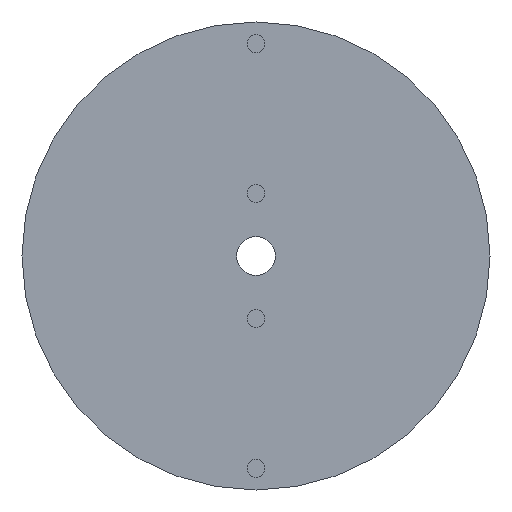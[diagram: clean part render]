
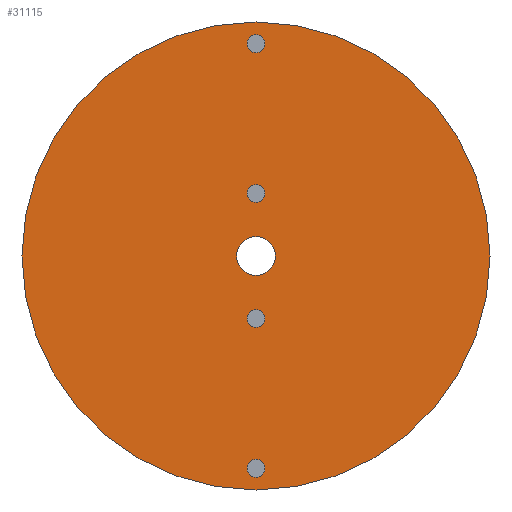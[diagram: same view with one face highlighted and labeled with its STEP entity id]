
A CAD part, front view. The second image highlights one B-rep face of the part: STEP entity #31115.
In plain terms, the highlighted planar face has unit normal (0, -1, 0).
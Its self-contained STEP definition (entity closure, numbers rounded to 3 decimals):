
#505 = AXIS2_PLACEMENT_3D ( 'NONE', #84507, #78976, #64778 ) ;
#644 = AXIS2_PLACEMENT_3D ( 'NONE', #74803, #34205, #80872 ) ;
#990 = DIRECTION ( 'NONE',  ( 0., 0., -1. ) ) ;
#2485 = EDGE_LOOP ( 'NONE', ( #52417, #36648 ) ) ;
#2487 = EDGE_LOOP ( 'NONE', ( #77822, #10987 ) ) ;
#4079 = CARTESIAN_POINT ( 'NONE',  ( -1.3, -34.6, -30.9 ) ) ;
#4391 = CARTESIAN_POINT ( 'NONE',  ( -1.3, -34.6, -9.1 ) ) ;
#4487 = VERTEX_POINT ( 'NONE', #20468 ) ;
#7564 = CIRCLE ( 'NONE', #32097, 2.825 ) ;
#7887 = CARTESIAN_POINT ( 'NONE',  ( 0., -34.6, 34.05 ) ) ;
#9667 = AXIS2_PLACEMENT_3D ( 'NONE', #12794, #31916, #52788 ) ;
#10987 = ORIENTED_EDGE ( 'NONE', *, *, #44942, .F. ) ;
#11839 = DIRECTION ( 'NONE',  ( 0., -1., 0. ) ) ;
#12529 = DIRECTION ( 'NONE',  ( 0., 0., -1. ) ) ;
#12794 = CARTESIAN_POINT ( 'NONE',  ( 0., -34.6, 0. ) ) ;
#14035 = CARTESIAN_POINT ( 'NONE',  ( 1.3, -34.6, -30.9 ) ) ;
#14142 = CIRCLE ( 'NONE', #18841, 1.3 ) ;
#14581 = AXIS2_PLACEMENT_3D ( 'NONE', #81040, #21008, #21878 ) ;
#14910 = VERTEX_POINT ( 'NONE', #52384 ) ;
#15947 = CARTESIAN_POINT ( 'NONE',  ( 0., -34.6, -2.825 ) ) ;
#16130 = CARTESIAN_POINT ( 'NONE',  ( 0., -34.6, -34.05 ) ) ;
#17238 = PLANE ( 'NONE',  #505 ) ;
#17240 = CARTESIAN_POINT ( 'NONE',  ( 1.3, -34.6, 9.1 ) ) ;
#17877 = AXIS2_PLACEMENT_3D ( 'NONE', #79299, #85960, #46257 ) ;
#18340 = EDGE_CURVE ( 'NONE', #76093, #58499, #36353, .T. ) ;
#18790 = EDGE_LOOP ( 'NONE', ( #50006, #62843 ) ) ;
#18841 = AXIS2_PLACEMENT_3D ( 'NONE', #46218, #59521, #990 ) ;
#19376 = EDGE_LOOP ( 'NONE', ( #30981, #22395 ) ) ;
#19532 = ORIENTED_EDGE ( 'NONE', *, *, #46116, .F. ) ;
#20451 = CIRCLE ( 'NONE', #36573, 1.3 ) ;
#20468 = CARTESIAN_POINT ( 'NONE',  ( 0., -34.6, 2.825 ) ) ;
#20906 = FACE_BOUND ( 'NONE', #2487, .T. ) ;
#20959 = CARTESIAN_POINT ( 'NONE',  ( 0., -34.6, 9.1 ) ) ;
#21008 = DIRECTION ( 'NONE',  ( 0., -1., 0. ) ) ;
#21196 = ORIENTED_EDGE ( 'NONE', *, *, #18340, .T. ) ;
#21878 = DIRECTION ( 'NONE',  ( 0., 0., -1. ) ) ;
#22010 = FACE_BOUND ( 'NONE', #73058, .T. ) ;
#22169 = CIRCLE ( 'NONE', #57112, 1.3 ) ;
#22282 = CARTESIAN_POINT ( 'NONE',  ( -1.3, -34.6, 9.1 ) ) ;
#22395 = ORIENTED_EDGE ( 'NONE', *, *, #53600, .F. ) ;
#22413 = ORIENTED_EDGE ( 'NONE', *, *, #71271, .T. ) ;
#22891 = DIRECTION ( 'NONE',  ( 0., 1., 0. ) ) ;
#24030 = DIRECTION ( 'NONE',  ( 0., -1., 0. ) ) ;
#24579 = EDGE_LOOP ( 'NONE', ( #21196, #22413 ) ) ;
#25255 = EDGE_CURVE ( 'NONE', #70640, #72272, #63645, .T. ) ;
#25558 = DIRECTION ( 'NONE',  ( 0., -1., 0. ) ) ;
#26463 = DIRECTION ( 'NONE',  ( 0., 0., -1. ) ) ;
#26764 = CIRCLE ( 'NONE', #54887, 1.3 ) ;
#29778 = VERTEX_POINT ( 'NONE', #14035 ) ;
#29796 = EDGE_CURVE ( 'NONE', #68676, #67838, #22169, .T. ) ;
#29823 = DIRECTION ( 'NONE',  ( 0., 0., -1. ) ) ;
#30523 = EDGE_CURVE ( 'NONE', #4487, #57758, #7564, .T. ) ;
#30981 = ORIENTED_EDGE ( 'NONE', *, *, #29796, .F. ) ;
#31115 = ADVANCED_FACE ( 'NONE', ( #82163, #64520, #46883, #44836, #22010, #20906 ), #17238, .T. ) ;
#31805 = CARTESIAN_POINT ( 'NONE',  ( 0., -34.6, -9.1 ) ) ;
#31916 = DIRECTION ( 'NONE',  ( 0., -1., 0. ) ) ;
#32097 = AXIS2_PLACEMENT_3D ( 'NONE', #42931, #50673, #36797 ) ;
#32870 = DIRECTION ( 'NONE',  ( 0., -1., 0. ) ) ;
#33440 = CIRCLE ( 'NONE', #54252, 1.3 ) ;
#34205 = DIRECTION ( 'NONE',  ( 0., -1., 0. ) ) ;
#34253 = CARTESIAN_POINT ( 'NONE',  ( -1.3, -34.6, 30.9 ) ) ;
#36353 = CIRCLE ( 'NONE', #9667, 34.05 ) ;
#36573 = AXIS2_PLACEMENT_3D ( 'NONE', #50713, #24030, #37402 ) ;
#36648 = ORIENTED_EDGE ( 'NONE', *, *, #76216, .T. ) ;
#36797 = DIRECTION ( 'NONE',  ( 0., 0., -1. ) ) ;
#36824 = DIRECTION ( 'NONE',  ( 0., 1., 0. ) ) ;
#37402 = DIRECTION ( 'NONE',  ( 0., 0., -1. ) ) ;
#42663 = DIRECTION ( 'NONE',  ( 0., 0., -1. ) ) ;
#42931 = CARTESIAN_POINT ( 'NONE',  ( 0., -34.6, 0. ) ) ;
#44836 = FACE_BOUND ( 'NONE', #2485, .T. ) ;
#44942 = EDGE_CURVE ( 'NONE', #57758, #4487, #55756, .T. ) ;
#46116 = EDGE_CURVE ( 'NONE', #72272, #70640, #69054, .T. ) ;
#46218 = CARTESIAN_POINT ( 'NONE',  ( 0., -34.6, -30.9 ) ) ;
#46257 = DIRECTION ( 'NONE',  ( 0., 0., -1. ) ) ;
#46883 = FACE_OUTER_BOUND ( 'NONE', #24579, .T. ) ;
#48324 = AXIS2_PLACEMENT_3D ( 'NONE', #31805, #11839, #58187 ) ;
#50006 = ORIENTED_EDGE ( 'NONE', *, *, #77081, .F. ) ;
#50673 = DIRECTION ( 'NONE',  ( 0., -1., 0. ) ) ;
#50713 = CARTESIAN_POINT ( 'NONE',  ( 0., -34.6, -30.9 ) ) ;
#52384 = CARTESIAN_POINT ( 'NONE',  ( 1.3, -34.6, 30.9 ) ) ;
#52417 = ORIENTED_EDGE ( 'NONE', *, *, #77855, .T. ) ;
#52712 = AXIS2_PLACEMENT_3D ( 'NONE', #76530, #36824, #29823 ) ;
#52788 = DIRECTION ( 'NONE',  ( 0., 0., -1. ) ) ;
#53600 = EDGE_CURVE ( 'NONE', #67838, #68676, #33440, .T. ) ;
#53968 = VERTEX_POINT ( 'NONE', #4079 ) ;
#54252 = AXIS2_PLACEMENT_3D ( 'NONE', #71702, #25558, #12529 ) ;
#54887 = AXIS2_PLACEMENT_3D ( 'NONE', #82352, #22891, #42663 ) ;
#55756 = CIRCLE ( 'NONE', #644, 2.825 ) ;
#57112 = AXIS2_PLACEMENT_3D ( 'NONE', #20959, #32870, #26463 ) ;
#57758 = VERTEX_POINT ( 'NONE', #15947 ) ;
#58187 = DIRECTION ( 'NONE',  ( 0., 0., -1. ) ) ;
#58499 = VERTEX_POINT ( 'NONE', #16130 ) ;
#59521 = DIRECTION ( 'NONE',  ( 0., -1., 0. ) ) ;
#60551 = CARTESIAN_POINT ( 'NONE',  ( 1.3, -34.6, -9.1 ) ) ;
#62843 = ORIENTED_EDGE ( 'NONE', *, *, #84588, .F. ) ;
#63645 = CIRCLE ( 'NONE', #48324, 1.3 ) ;
#64520 = FACE_BOUND ( 'NONE', #19376, .T. ) ;
#64778 = DIRECTION ( 'NONE',  ( 0., 0., -1. ) ) ;
#67838 = VERTEX_POINT ( 'NONE', #17240 ) ;
#68676 = VERTEX_POINT ( 'NONE', #22282 ) ;
#69054 = CIRCLE ( 'NONE', #17877, 1.3 ) ;
#69165 = CIRCLE ( 'NONE', #52712, 1.3 ) ;
#70640 = VERTEX_POINT ( 'NONE', #60551 ) ;
#71271 = EDGE_CURVE ( 'NONE', #58499, #76093, #79209, .T. ) ;
#71702 = CARTESIAN_POINT ( 'NONE',  ( 0., -34.6, 9.1 ) ) ;
#72272 = VERTEX_POINT ( 'NONE', #4391 ) ;
#73058 = EDGE_LOOP ( 'NONE', ( #75143, #19532 ) ) ;
#74803 = CARTESIAN_POINT ( 'NONE',  ( 0., -34.6, 0. ) ) ;
#75143 = ORIENTED_EDGE ( 'NONE', *, *, #25255, .F. ) ;
#76093 = VERTEX_POINT ( 'NONE', #7887 ) ;
#76216 = EDGE_CURVE ( 'NONE', #79425, #14910, #26764, .T. ) ;
#76530 = CARTESIAN_POINT ( 'NONE',  ( 0., -34.6, 30.9 ) ) ;
#77081 = EDGE_CURVE ( 'NONE', #53968, #29778, #20451, .T. ) ;
#77822 = ORIENTED_EDGE ( 'NONE', *, *, #30523, .F. ) ;
#77855 = EDGE_CURVE ( 'NONE', #14910, #79425, #69165, .T. ) ;
#78976 = DIRECTION ( 'NONE',  ( 0., -1., 0. ) ) ;
#79209 = CIRCLE ( 'NONE', #14581, 34.05 ) ;
#79299 = CARTESIAN_POINT ( 'NONE',  ( 0., -34.6, -9.1 ) ) ;
#79425 = VERTEX_POINT ( 'NONE', #34253 ) ;
#80872 = DIRECTION ( 'NONE',  ( 0., 0., -1. ) ) ;
#81040 = CARTESIAN_POINT ( 'NONE',  ( 0., -34.6, 0. ) ) ;
#82163 = FACE_BOUND ( 'NONE', #18790, .T. ) ;
#82352 = CARTESIAN_POINT ( 'NONE',  ( 0., -34.6, 30.9 ) ) ;
#84507 = CARTESIAN_POINT ( 'NONE',  ( 0., -34.6, 0. ) ) ;
#84588 = EDGE_CURVE ( 'NONE', #29778, #53968, #14142, .T. ) ;
#85960 = DIRECTION ( 'NONE',  ( 0., -1., 0. ) ) ;
